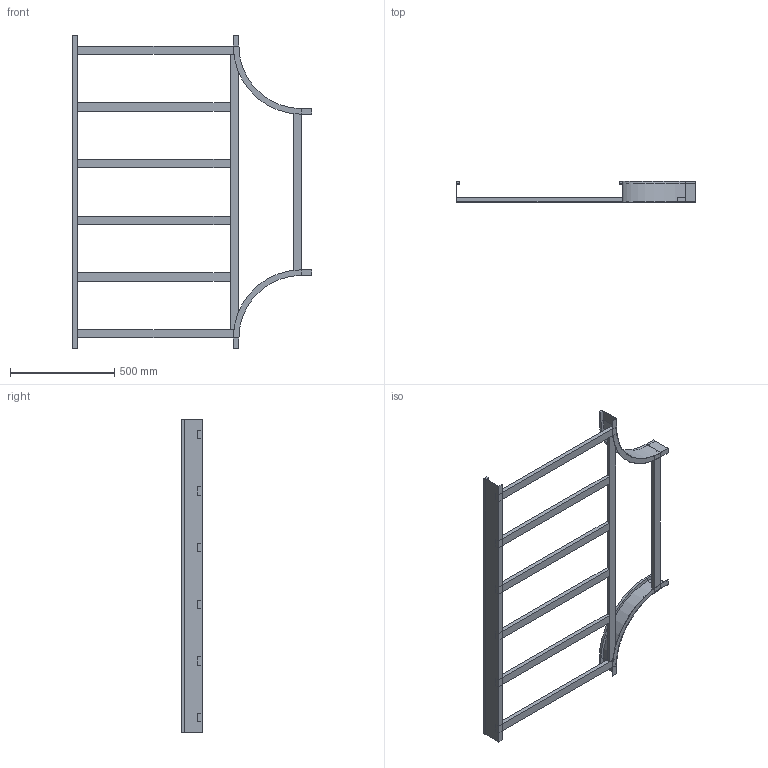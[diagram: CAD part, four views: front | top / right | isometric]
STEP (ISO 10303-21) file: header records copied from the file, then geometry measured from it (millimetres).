
FILE_DESCRIPTION (( 'STEP AP214' ), '1' );
FILE_NAME ('B2_15B3D800.step', '2025-02-21T15:50:27', ( '' ), ( '' ), 'SwSTEP 2.0', 'SolidWorks 2023', '' );
FILE_SCHEMA (( 'AUTOMOTIVE_DESIGN' ));
Length unit declared in the file: millimetre
Products named in the file (6): TRAVERSINO_INTERMEDIO_R300+800; TRAVERSINO_800; B2_TRAVERSINO_LONG._R300+800; B2_15B3D800; B2_LONGH.INTERNO 90°_H100_R300; B2_LONGH.RETT_H100_R300+800
Assembly tree (11 placements, depth 2):
  B2_15B3D800
    B2_LONGH.INTERNO 90°_H100_R300  x2
    B2_LONGH.RETT_H100_R300+800
    TRAVERSINO_800  x3
    B2_TRAVERSINO_LONG._R300+800
    TRAVERSINO_INTERMEDIO_R300+800  x4
Bounding box: 1150 x 100 x 1500 mm (x, y, z)
Volume: 6627403 mm3; surface area: 1590253.8 mm2
Topology: 11 solids, 11 shells, 110 faces, 232 edges, 144 vertices
Faces by surface type: plane 102, cylinder 8
Entity records: 1655 total; most frequent: DIRECTION 260, CARTESIAN_POINT 256, ORIENTED_EDGE 232, EDGE_CURVE 116, LINE 108, VECTOR 108, AXIS2_PLACEMENT_3D 76, VERTEX_POINT 72
